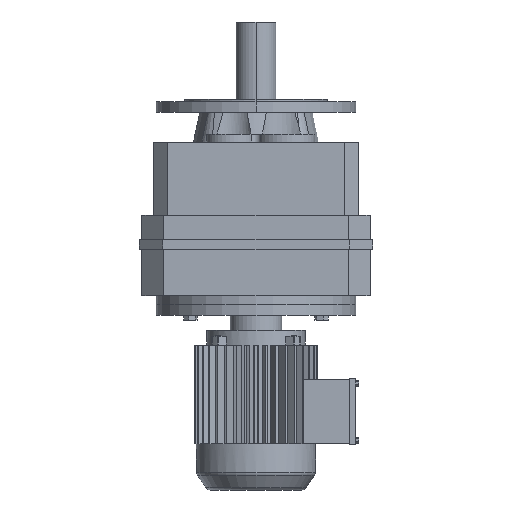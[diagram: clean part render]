
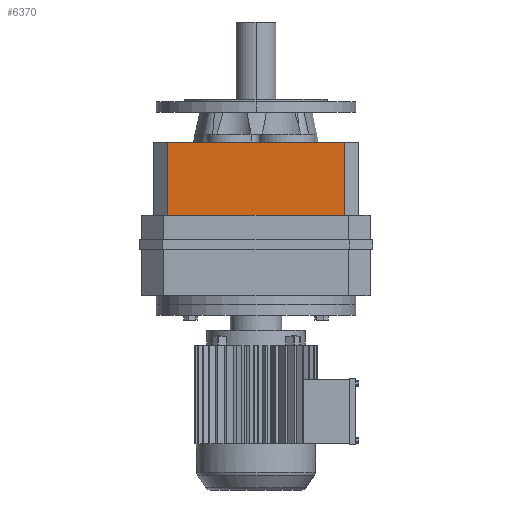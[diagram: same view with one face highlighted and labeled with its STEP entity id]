
A CAD part, front view. The second image highlights one B-rep face of the part: STEP entity #6370.
In plain terms, the highlighted planar face has unit normal (0, -1, 0).
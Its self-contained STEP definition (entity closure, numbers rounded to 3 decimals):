
#477 = PLANE('',#478);
#478 = AXIS2_PLACEMENT_3D('',#479,#480,#481);
#479 = CARTESIAN_POINT('',(176.36,-135.137,156.544));
#480 = DIRECTION('',(0.,0.,1.));
#481 = DIRECTION('',(1.,0.,0.));
#532 = PLANE('',#533);
#533 = AXIS2_PLACEMENT_3D('',#534,#535,#536);
#534 = CARTESIAN_POINT('',(-344.85,-29.6,284.625));
#535 = DIRECTION('',(0.,0.,1.));
#536 = DIRECTION('',(1.,0.,0.));
#1902 = VERTEX_POINT('',#1903);
#1903 = CARTESIAN_POINT('',(155.42,-175.,156.544));
#1917 = PLANE('',#1918);
#1918 = AXIS2_PLACEMENT_3D('',#1919,#1920,#1921);
#1919 = CARTESIAN_POINT('',(155.42,-175.,156.544));
#1920 = DIRECTION('',(-0.707,0.707,0.));
#1921 = DIRECTION('',(-0.707,-0.707,0.));
#1929 = EDGE_CURVE('',#1902,#1930,#1932,.T.);
#1930 = VERTEX_POINT('',#1931);
#1931 = CARTESIAN_POINT('',(-155.42,-175.,156.544));
#1932 = SURFACE_CURVE('',#1933,(#1937,#1944),.PCURVE_S1.);
#1933 = LINE('',#1934,#1935);
#1934 = CARTESIAN_POINT('',(-155.42,-175.,156.544));
#1935 = VECTOR('',#1936,1.);
#1936 = DIRECTION('',(-1.,0.,0.));
#1937 = PCURVE('',#477,#1938);
#1938 = DEFINITIONAL_REPRESENTATION('',(#1939),#1943);
#1939 = LINE('',#1940,#1941);
#1940 = CARTESIAN_POINT('',(-331.78,-39.863));
#1941 = VECTOR('',#1942,1.);
#1942 = DIRECTION('',(-1.,0.));
#1943 = ( GEOMETRIC_REPRESENTATION_CONTEXT(2) 
PARAMETRIC_REPRESENTATION_CONTEXT() REPRESENTATION_CONTEXT('2D SPACE',''
  ) );
#1944 = PCURVE('',#1945,#1950);
#1945 = PLANE('',#1946);
#1946 = AXIS2_PLACEMENT_3D('',#1947,#1948,#1949);
#1947 = CARTESIAN_POINT('',(-155.42,-175.,156.544));
#1948 = DIRECTION('',(0.,1.,0.));
#1949 = DIRECTION('',(0.,0.,1.));
#1950 = DEFINITIONAL_REPRESENTATION('',(#1951),#1955);
#1951 = LINE('',#1952,#1953);
#1952 = CARTESIAN_POINT('',(0.,0.));
#1953 = VECTOR('',#1954,1.);
#1954 = DIRECTION('',(0.,-1.));
#1955 = ( GEOMETRIC_REPRESENTATION_CONTEXT(2) 
PARAMETRIC_REPRESENTATION_CONTEXT() REPRESENTATION_CONTEXT('2D SPACE',''
  ) );
#1973 = PLANE('',#1974);
#1974 = AXIS2_PLACEMENT_3D('',#1975,#1976,#1977);
#1975 = CARTESIAN_POINT('',(-155.42,-175.,156.544));
#1976 = DIRECTION('',(0.707,0.707,0.));
#1977 = DIRECTION('',(-0.707,0.707,0.));
#4522 = VERTEX_POINT('',#4523);
#4523 = CARTESIAN_POINT('',(-155.42,-175.,284.625));
#4544 = EDGE_CURVE('',#4545,#4522,#4547,.T.);
#4545 = VERTEX_POINT('',#4546);
#4546 = CARTESIAN_POINT('',(155.42,-175.,284.625));
#4547 = SURFACE_CURVE('',#4548,(#4552,#4559),.PCURVE_S1.);
#4548 = LINE('',#4549,#4550);
#4549 = CARTESIAN_POINT('',(-155.42,-175.,284.625));
#4550 = VECTOR('',#4551,1.);
#4551 = DIRECTION('',(-1.,0.,0.));
#4552 = PCURVE('',#532,#4553);
#4553 = DEFINITIONAL_REPRESENTATION('',(#4554),#4558);
#4554 = LINE('',#4555,#4556);
#4555 = CARTESIAN_POINT('',(189.43,-145.4));
#4556 = VECTOR('',#4557,1.);
#4557 = DIRECTION('',(-1.,0.));
#4558 = ( GEOMETRIC_REPRESENTATION_CONTEXT(2) 
PARAMETRIC_REPRESENTATION_CONTEXT() REPRESENTATION_CONTEXT('2D SPACE',''
  ) );
#4559 = PCURVE('',#1945,#4560);
#4560 = DEFINITIONAL_REPRESENTATION('',(#4561),#4565);
#4561 = LINE('',#4562,#4563);
#4562 = CARTESIAN_POINT('',(128.081,0.));
#4563 = VECTOR('',#4564,1.);
#4564 = DIRECTION('',(0.,-1.));
#4565 = ( GEOMETRIC_REPRESENTATION_CONTEXT(2) 
PARAMETRIC_REPRESENTATION_CONTEXT() REPRESENTATION_CONTEXT('2D SPACE',''
  ) );
#5589 = EDGE_CURVE('',#1930,#4522,#5590,.T.);
#5590 = SURFACE_CURVE('',#5591,(#5595,#5602),.PCURVE_S1.);
#5591 = LINE('',#5592,#5593);
#5592 = CARTESIAN_POINT('',(-155.42,-175.,156.544));
#5593 = VECTOR('',#5594,1.);
#5594 = DIRECTION('',(0.,0.,1.));
#5595 = PCURVE('',#1973,#5596);
#5596 = DEFINITIONAL_REPRESENTATION('',(#5597),#5601);
#5597 = LINE('',#5598,#5599);
#5598 = CARTESIAN_POINT('',(0.,0.));
#5599 = VECTOR('',#5600,1.);
#5600 = DIRECTION('',(0.,1.));
#5601 = ( GEOMETRIC_REPRESENTATION_CONTEXT(2) 
PARAMETRIC_REPRESENTATION_CONTEXT() REPRESENTATION_CONTEXT('2D SPACE',''
  ) );
#5602 = PCURVE('',#1945,#5603);
#5603 = DEFINITIONAL_REPRESENTATION('',(#5604),#5608);
#5604 = LINE('',#5605,#5606);
#5605 = CARTESIAN_POINT('',(0.,0.));
#5606 = VECTOR('',#5607,1.);
#5607 = DIRECTION('',(1.,0.));
#5608 = ( GEOMETRIC_REPRESENTATION_CONTEXT(2) 
PARAMETRIC_REPRESENTATION_CONTEXT() REPRESENTATION_CONTEXT('2D SPACE',''
  ) );
#6032 = EDGE_CURVE('',#1902,#4545,#6033,.T.);
#6033 = SURFACE_CURVE('',#6034,(#6038,#6045),.PCURVE_S1.);
#6034 = LINE('',#6035,#6036);
#6035 = CARTESIAN_POINT('',(155.42,-175.,156.544));
#6036 = VECTOR('',#6037,1.);
#6037 = DIRECTION('',(0.,0.,1.));
#6038 = PCURVE('',#1917,#6039);
#6039 = DEFINITIONAL_REPRESENTATION('',(#6040),#6044);
#6040 = LINE('',#6041,#6042);
#6041 = CARTESIAN_POINT('',(0.,0.));
#6042 = VECTOR('',#6043,1.);
#6043 = DIRECTION('',(0.,1.));
#6044 = ( GEOMETRIC_REPRESENTATION_CONTEXT(2) 
PARAMETRIC_REPRESENTATION_CONTEXT() REPRESENTATION_CONTEXT('2D SPACE',''
  ) );
#6045 = PCURVE('',#1945,#6046);
#6046 = DEFINITIONAL_REPRESENTATION('',(#6047),#6051);
#6047 = LINE('',#6048,#6049);
#6048 = CARTESIAN_POINT('',(0.,310.84));
#6049 = VECTOR('',#6050,1.);
#6050 = DIRECTION('',(1.,0.));
#6051 = ( GEOMETRIC_REPRESENTATION_CONTEXT(2) 
PARAMETRIC_REPRESENTATION_CONTEXT() REPRESENTATION_CONTEXT('2D SPACE',''
  ) );
#6370 = ADVANCED_FACE('',(#6371),#1945,.F.);
#6371 = FACE_BOUND('',#6372,.T.);
#6372 = EDGE_LOOP('',(#6373,#6374,#6375,#6376));
#6373 = ORIENTED_EDGE('',*,*,#4544,.T.);
#6374 = ORIENTED_EDGE('',*,*,#5589,.F.);
#6375 = ORIENTED_EDGE('',*,*,#1929,.F.);
#6376 = ORIENTED_EDGE('',*,*,#6032,.T.);
